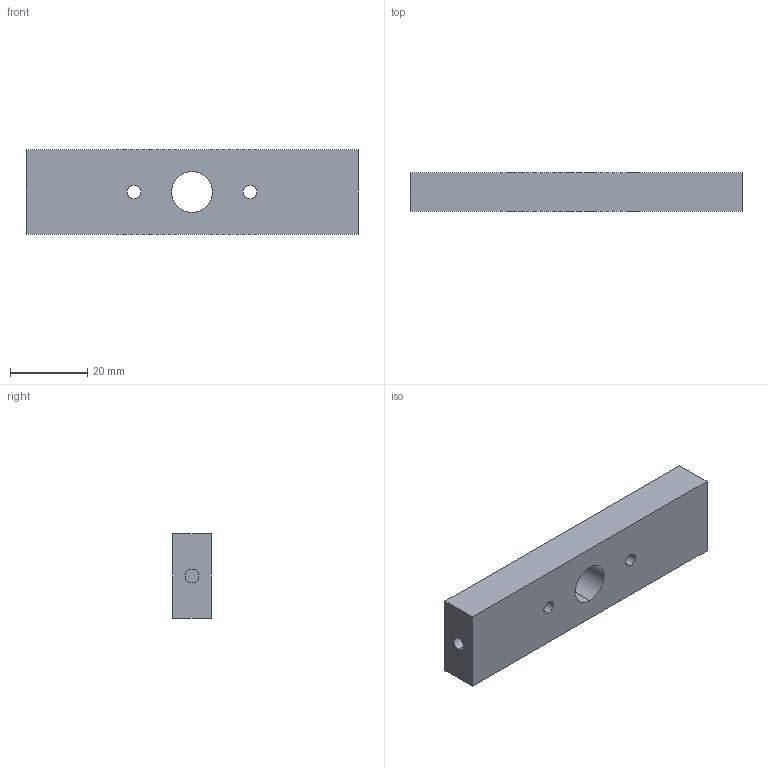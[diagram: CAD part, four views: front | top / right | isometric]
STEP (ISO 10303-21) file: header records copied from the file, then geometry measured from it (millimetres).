
FILE_DESCRIPTION (( 'STEP AP214' ), '1' );
FILE_NAME ('Deslizador prismatico.STEP', '2019-05-12T01:52:50', ( '' ), ( '' ), 'SwSTEP 2.0', 'SolidWorks 2018', '' );
FILE_SCHEMA (( 'AUTOMOTIVE_DESIGN' ));
Length unit declared in the file: millimetre
Products named in the file (1): Deslizador prismatico
Bounding box: 86 x 10 x 22 mm (x, y, z)
Volume: 17692.4 mm3; surface area: 6451.6 mm2
Topology: 1 solids, 1 shells, 15 faces, 36 edges, 24 vertices
Faces by surface type: cylinder 8, plane 7
Entity records: 492 total; most frequent: DIRECTION 84, CARTESIAN_POINT 76, ORIENTED_EDGE 72, EDGE_CURVE 36, AXIS2_PLACEMENT_3D 32, VERTEX_POINT 24, EDGE_LOOP 22, VECTOR 20
